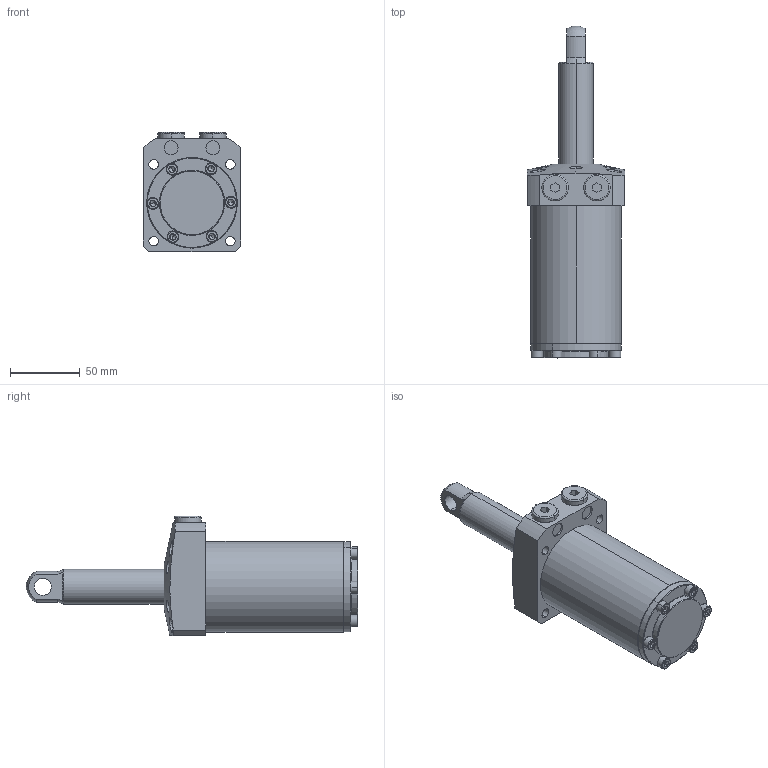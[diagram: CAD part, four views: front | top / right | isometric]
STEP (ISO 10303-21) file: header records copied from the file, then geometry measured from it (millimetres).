
FILE_DESCRIPTION (( 'STEP AP203' ), '1' );
FILE_NAME ('680650-CP-076.step', '2016-11-02T03:25:57', ( 'wxp' ), ( '' ), 'SwSTEP 2.0', 'SolidWorks 2011', '' );
FILE_SCHEMA (( 'CONFIG_CONTROL_DESIGN' ));
Length unit declared in the file: millimetre
Products named in the file (7): 680650-CP-076; 葩璃 680650-CA-15-13^680650-CP-076; 葩璃 68065-CA-51-6^680650-CP-076; 葩璃 68065-CA-51-5^680650-CP-076; 葩璃 68065-CA-51-4^680650-CP-076; 葩璃 68065-CA-51-3^680650-CP-076; 葩璃 68065-CA-51-1^680650-CP-076
Assembly tree (17 placements, depth 2):
  680650-CP-076
    葩璃 68065-CA-51-5^680650-CP-076  x6
    葩璃 68065-CA-51-4^680650-CP-076  x6
    葩璃 68065-CA-51-3^680650-CP-076
    葩璃 68065-CA-51-1^680650-CP-076
    葩璃 680650-CA-15-13^680650-CP-076
    葩璃 68065-CA-51-6^680650-CP-076  x2
Bounding box: 70 x 238 x 85.5 mm (x, y, z)
Volume: 508508.3 mm3; surface area: 76212.6 mm2
Topology: 17 solids, 17 shells, 546 faces, 1034 edges, 542 vertices
Faces by surface type: plane 233, cone 168, cylinder 127, torus 16, sphere 2
Entity records: 7481 total; most frequent: CARTESIAN_POINT 1815, DIRECTION 1071, ORIENTED_EDGE 872, AXIS2_PLACEMENT_3D 449, EDGE_CURVE 436, VERTEX_POINT 260, EDGE_LOOP 254, CIRCLE 219
